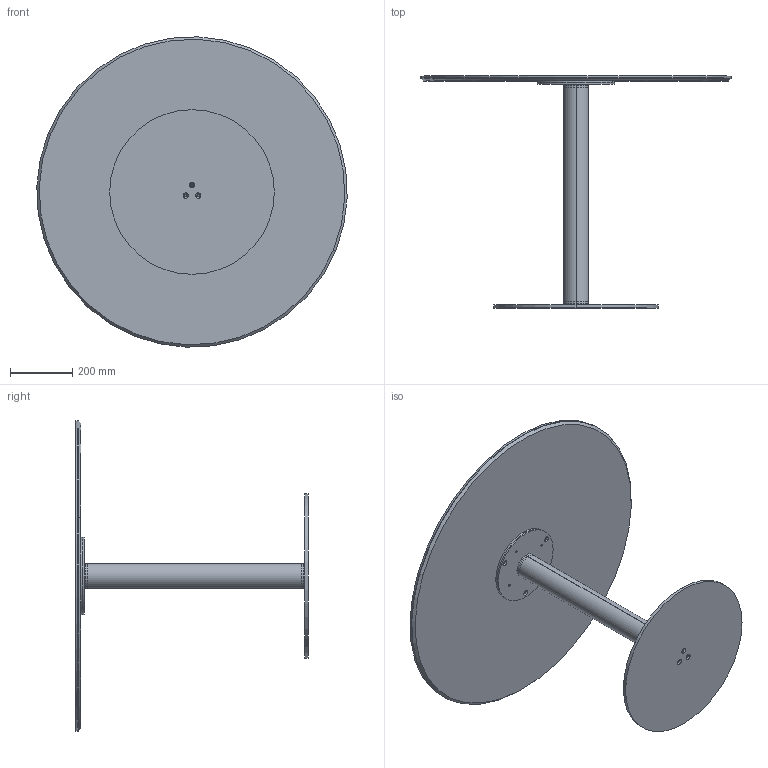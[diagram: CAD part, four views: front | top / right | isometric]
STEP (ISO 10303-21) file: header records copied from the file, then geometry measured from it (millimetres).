
FILE_DESCRIPTION (( 'STEP AP203' ), '1' );
FILE_NAME ('CB35C.STEP', '2024-08-08T08:24:11', ( '' ), ( '' ), 'SwSTEP 2.0', 'SolidWorks 2022', '' );
FILE_SCHEMA (( 'CONFIG_CONTROL_DESIGN' ));
Length unit declared in the file: millimetre
Products named in the file (9): M8xXXmm_M8X35mm; CB35C; KXXCXX-00-Piani Rotondi in ceramica CON PIASTRA_K03P PIANO CERAMICA D.100cm; CBS000000COL-00-CILINDRO BISTRO COLONNA H75; CBS200000PST-00-CONTROPIASTRA PER PIASTRA D.25cm GREZZO_250; P0000003-00-STAFFA DI FISSAGGIO DIAMETRO 250_P0000003-250mm normale; K1XCMXX-00-Piani Rotondi in ceramica_D.1000; P0000005-00-FILETTO M24 CON FORO H.20mm; CBS000000BAS-00-BISTRO PIASTRA INFERIORE_D.530
Assembly tree (8 placements, depth 3):
  CB35C
    CBS000000BAS-00-BISTRO PIASTRA INFERIORE_D.530
    CBS200000PST-00-CONTROPIASTRA PER PIASTRA D.25cm GREZZO_250
    CBS000000COL-00-CILINDRO BISTRO COLONNA H75
    KXXCXX-00-Piani Rotondi in ceramica CON PIASTRA_K03P PIANO CERAMICA D.100cm
      K1XCMXX-00-Piani Rotondi in ceramica_D.1000
      P0000003-00-STAFFA DI FISSAGGIO DIAMETRO 250_P0000003-250mm normale
      M8xXXmm_M8X35mm
      P0000005-00-FILETTO M24 CON FORO H.20mm
Bounding box: 999.3 x 747 x 999.3 mm (x, y, z)
Volume: 15604631 mm3; surface area: 4214804.2 mm2
Topology: 10 solids, 10 shells, 171 faces, 404 edges, 252 vertices
Faces by surface type: cylinder 91, cone 41, plane 32, torus 4, bspline 3
Entity records: 8225 total; most frequent: CARTESIAN_POINT 3257, DIRECTION 893, ORIENTED_EDGE 804, EDGE_CURVE 402, AXIS2_PLACEMENT_3D 378, VERTEX_POINT 252, EDGE_LOOP 224, CIRCLE 198
